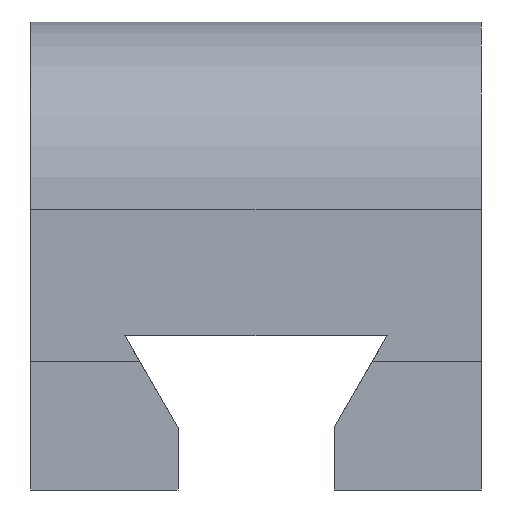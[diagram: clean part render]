
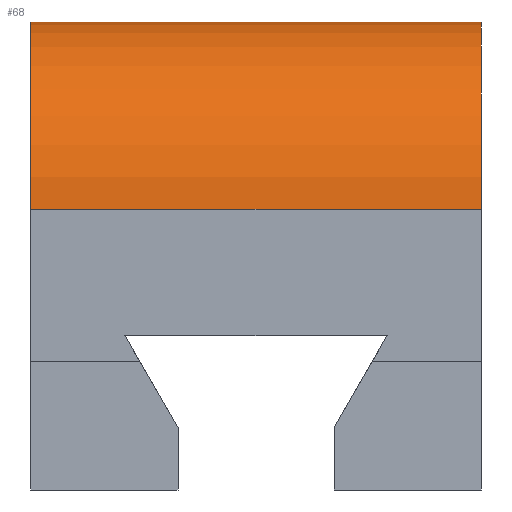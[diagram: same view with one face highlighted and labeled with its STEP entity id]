
A CAD part, front view. The second image highlights one B-rep face of the part: STEP entity #68.
In plain terms, the highlighted cylindrical face has radius 12 mm (diameter 24 mm), a partial arc.
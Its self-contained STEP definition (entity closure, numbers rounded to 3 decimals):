
#68 = ADVANCED_FACE( '', ( #141 ), #142, .T. );
#141 = FACE_OUTER_BOUND( '', #213, .T. );
#142 = CYLINDRICAL_SURFACE( '', #214, 12. );
#213 = EDGE_LOOP( '', ( #341, #342, #343, #344 ) );
#214 = AXIS2_PLACEMENT_3D( '', #345, #346, #347 );
#341 = ORIENTED_EDGE( '', *, *, #440, .F. );
#342 = ORIENTED_EDGE( '', *, *, #469, .F. );
#343 = ORIENTED_EDGE( '', *, *, #431, .F. );
#344 = ORIENTED_EDGE( '', *, *, #472, .F. );
#345 = CARTESIAN_POINT( '', ( 0., 15.2, 18. ) );
#346 = DIRECTION( '', ( 1., 0., 0. ) );
#347 = DIRECTION( '', ( 0., 0., 1. ) );
#431 = EDGE_CURVE( '', #509, #512, #513, .T. );
#440 = EDGE_CURVE( '', #527, #529, #530, .T. );
#469 = EDGE_CURVE( '', #512, #527, #572, .F. );
#472 = EDGE_CURVE( '', #529, #509, #575, .T. );
#509 = VERTEX_POINT( '', #620 );
#512 = VERTEX_POINT( '', #624 );
#513 = CIRCLE( '', #625, 12. );
#527 = VERTEX_POINT( '', #644 );
#529 = VERTEX_POINT( '', #647 );
#530 = CIRCLE( '', #648, 12. );
#572 = LINE( '', #710, #711 );
#575 = LINE( '', #715, #716 );
#620 = CARTESIAN_POINT( '', ( 0., 3.2, 18. ) );
#624 = CARTESIAN_POINT( '', ( 0., 15.2, 30. ) );
#625 = AXIS2_PLACEMENT_3D( '', #749, #750, #751 );
#644 = CARTESIAN_POINT( '', ( 28.9, 15.2, 30. ) );
#647 = CARTESIAN_POINT( '', ( 28.9, 3.2, 18. ) );
#648 = AXIS2_PLACEMENT_3D( '', #761, #762, #763 );
#710 = CARTESIAN_POINT( '', ( 28.9, 15.2, 30. ) );
#711 = VECTOR( '', #787, 1000. );
#715 = CARTESIAN_POINT( '', ( 0., 3.2, 18. ) );
#716 = VECTOR( '', #789, 1000. );
#749 = CARTESIAN_POINT( '', ( 0., 15.2, 18. ) );
#750 = DIRECTION( '', ( -1., 0., 0. ) );
#751 = DIRECTION( '', ( 0., 0., 1. ) );
#761 = CARTESIAN_POINT( '', ( 28.9, 15.2, 18. ) );
#762 = DIRECTION( '', ( 1., 0., 0. ) );
#763 = DIRECTION( '', ( 0., 0., -1. ) );
#787 = DIRECTION( '', ( -1., 0., 0. ) );
#789 = DIRECTION( '', ( -1., 0., 0. ) );
